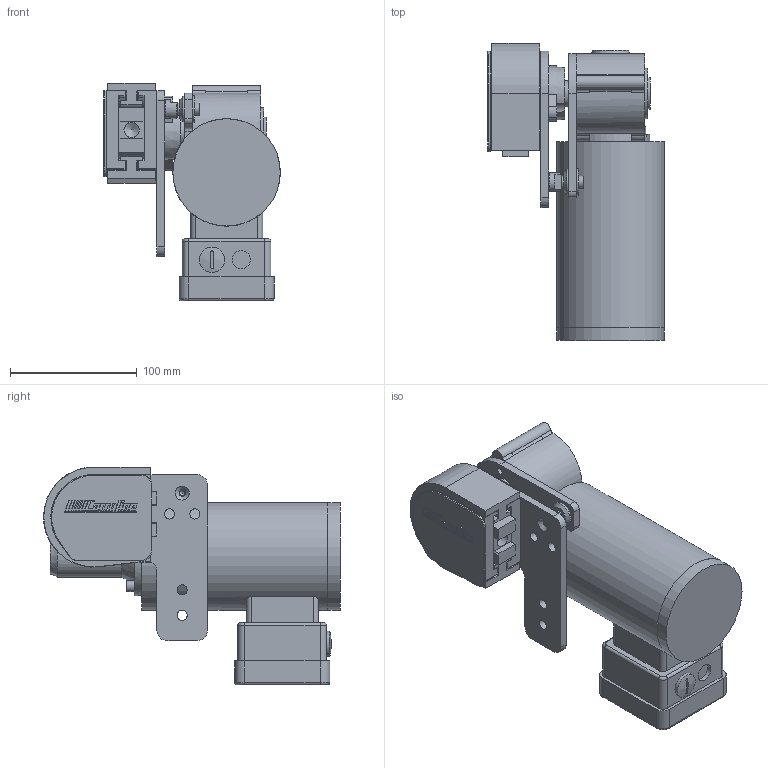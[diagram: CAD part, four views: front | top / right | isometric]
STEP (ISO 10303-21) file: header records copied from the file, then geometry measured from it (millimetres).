
FILE_DESCRIPTION((''),'2;1');
FILE_NAME('E:\Vault\Projekt\S380\3D S380\Serie 380\380-315H.stp','2010-11-30T15:06:57',('Per'),(''),'Autodesk Inventor 2011','Autodesk Inventor 2011','');
FILE_SCHEMA(('AUTOMOTIVE_DESIGN { 1 0 10303 214 1 1 1 1 }'));
Length unit declared in the file: millimetre
Products named in the file (1): 380-315H
Bounding box: 139.61 x 234.48 x 172 mm (x, y, z)
Volume: 1584661.7 mm3; surface area: 212431.5 mm2
Topology: 2 solids, 6 shells, 818 faces, 1940 edges, 1168 vertices
Faces by surface type: plane 333, cylinder 303, torus 119, sphere 33, bspline 16, cone 14
Full cylindrical faces by diameter (mm): 3.242 x2, 4 x8, 4.134 x9, 4.917 x2, 5.2 x4, 6.647 x2, 7 x6, 7.5 x4, 8 x4, 8.5 x3, 9.4 x1, 9.6 x1, 12 x1, 14.376 x2, 15 x2, 20 x2, 20.5 x1, 21.5 x1, 22 x2, 25 x3, 27 x1, 32 x2, 33 x1, 33.7 x1, 34 x2, 35 x1, 40 x2, 40.2 x1, 56 x1, 84.8 x1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
Entity records: 30178 total; most frequent: CARTESIAN_POINT 10811, DIRECTION 4082, ORIENTED_EDGE 3516, EDGE_CURVE 1758, AXIS2_PLACEMENT_3D 1595, VERTEX_POINT 1140, EDGE_LOOP 1042, VECTOR 892
